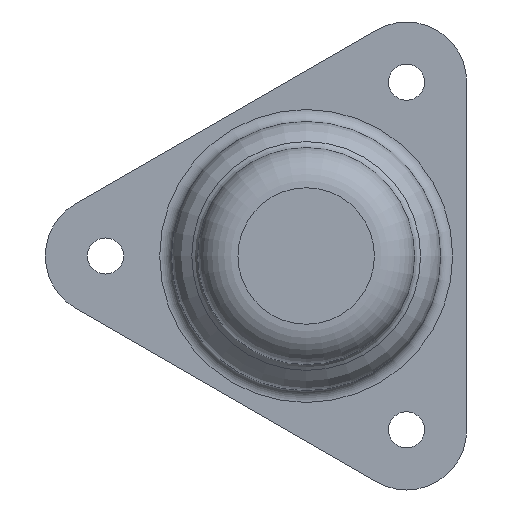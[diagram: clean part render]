
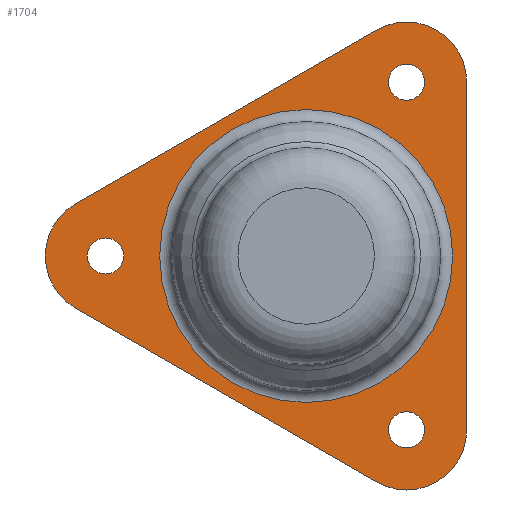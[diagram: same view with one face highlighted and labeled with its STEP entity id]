
A CAD part, left-side view. The second image highlights one B-rep face of the part: STEP entity #1704.
In plain terms, the highlighted planar face has unit normal (-1, 0, 0).
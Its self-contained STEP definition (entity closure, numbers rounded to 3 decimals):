
#28=FACE_BOUND('',#509,.T.);
#29=FACE_BOUND('',#510,.T.);
#30=FACE_BOUND('',#511,.T.);
#31=FACE_BOUND('',#512,.T.);
#58=PLANE('',#1967);
#104=LINE('',#3164,#179);
#135=LINE('',#3339,#210);
#137=LINE('',#3343,#212);
#179=VECTOR('',#2309,10.);
#210=VECTOR('',#2524,10.);
#212=VECTOR('',#2528,10.);
#384=FACE_OUTER_BOUND('',#508,.T.);
#508=EDGE_LOOP('',(#1520,#1521,#1522,#1523,#1524,#1525));
#509=EDGE_LOOP('',(#1526));
#510=EDGE_LOOP('',(#1527));
#511=EDGE_LOOP('',(#1528));
#512=EDGE_LOOP('',(#1529));
#610=CIRCLE('',#1873,15.);
#611=CIRCLE('',#1876,15.);
#654=CIRCLE('',#1952,4.5);
#656=CIRCLE('',#1955,4.5);
#658=CIRCLE('',#1958,4.5);
#661=CIRCLE('',#1968,15.);
#662=CIRCLE('',#1969,36.5);
#761=VERTEX_POINT('',#3156);
#762=VERTEX_POINT('',#3158);
#763=VERTEX_POINT('',#3162);
#764=VERTEX_POINT('',#3166);
#808=VERTEX_POINT('',#3309);
#810=VERTEX_POINT('',#3315);
#812=VERTEX_POINT('',#3321);
#815=VERTEX_POINT('',#3338);
#816=VERTEX_POINT('',#3342);
#817=VERTEX_POINT('',#3345);
#970=EDGE_CURVE('',#761,#762,#610,.T.);
#973=EDGE_CURVE('',#763,#761,#104,.T.);
#975=EDGE_CURVE('',#764,#763,#611,.T.);
#1041=EDGE_CURVE('',#808,#808,#654,.T.);
#1044=EDGE_CURVE('',#810,#810,#656,.T.);
#1047=EDGE_CURVE('',#812,#812,#658,.T.);
#1054=EDGE_CURVE('',#762,#815,#135,.T.);
#1056=EDGE_CURVE('',#816,#764,#137,.T.);
#1057=EDGE_CURVE('',#815,#816,#661,.T.);
#1058=EDGE_CURVE('',#817,#817,#662,.T.);
#1520=ORIENTED_EDGE('',*,*,#970,.F.);
#1521=ORIENTED_EDGE('',*,*,#973,.F.);
#1522=ORIENTED_EDGE('',*,*,#975,.F.);
#1523=ORIENTED_EDGE('',*,*,#1056,.F.);
#1524=ORIENTED_EDGE('',*,*,#1057,.F.);
#1525=ORIENTED_EDGE('',*,*,#1054,.F.);
#1526=ORIENTED_EDGE('',*,*,#1041,.T.);
#1527=ORIENTED_EDGE('',*,*,#1044,.T.);
#1528=ORIENTED_EDGE('',*,*,#1047,.T.);
#1529=ORIENTED_EDGE('',*,*,#1058,.T.);
#1704=ADVANCED_FACE('',(#384,#28,#29,#30,#31),#58,.F.);
#1873=AXIS2_PLACEMENT_3D('',#3159,#2303,#2304);
#1876=AXIS2_PLACEMENT_3D('',#3168,#2313,#2314);
#1952=AXIS2_PLACEMENT_3D('',#3311,#2488,#2489);
#1955=AXIS2_PLACEMENT_3D('',#3317,#2495,#2496);
#1958=AXIS2_PLACEMENT_3D('',#3323,#2502,#2503);
#1967=AXIS2_PLACEMENT_3D('',#3341,#2526,#2527);
#1968=AXIS2_PLACEMENT_3D('',#3344,#2529,#2530);
#1969=AXIS2_PLACEMENT_3D('',#3346,#2531,#2532);
#2303=DIRECTION('center_axis',(1.,0.,0.));
#2304=DIRECTION('ref_axis',(0.,-0.5,-0.866));
#2309=DIRECTION('',(0.,0.,-1.));
#2313=DIRECTION('center_axis',(1.,0.,0.));
#2314=DIRECTION('ref_axis',(0.,-0.5,0.866));
#2488=DIRECTION('center_axis',(1.,0.,0.));
#2489=DIRECTION('ref_axis',(0.,0.,-1.));
#2495=DIRECTION('center_axis',(1.,0.,0.));
#2496=DIRECTION('ref_axis',(0.,0.,-1.));
#2502=DIRECTION('center_axis',(1.,0.,0.));
#2503=DIRECTION('ref_axis',(0.,0.,-1.));
#2524=DIRECTION('',(0.,0.866,0.5));
#2526=DIRECTION('center_axis',(1.,0.,0.));
#2527=DIRECTION('ref_axis',(0.,0.,-1.));
#2528=DIRECTION('',(0.,-0.866,0.5));
#2529=DIRECTION('center_axis',(1.,0.,0.));
#2530=DIRECTION('ref_axis',(0.,1.,0.));
#2531=DIRECTION('center_axis',(1.,0.,0.));
#2532=DIRECTION('ref_axis',(0.,0.,-1.));
#3156=CARTESIAN_POINT('',(103.,-40.,-43.301));
#3158=CARTESIAN_POINT('',(103.,-17.5,-56.292));
#3159=CARTESIAN_POINT('Origin',(103.,-25.,-43.301));
#3162=CARTESIAN_POINT('',(103.,-40.,43.301));
#3164=CARTESIAN_POINT('',(103.,-40.,69.282));
#3166=CARTESIAN_POINT('',(103.,-17.5,56.292));
#3168=CARTESIAN_POINT('Origin',(103.,-25.,43.301));
#3309=CARTESIAN_POINT('',(103.,-25.,-38.801));
#3311=CARTESIAN_POINT('Origin',(103.,-25.,-43.301));
#3315=CARTESIAN_POINT('',(103.,50.,4.5));
#3317=CARTESIAN_POINT('Origin',(103.,50.,0.));
#3321=CARTESIAN_POINT('',(103.,-25.,47.801));
#3323=CARTESIAN_POINT('Origin',(103.,-25.,43.301));
#3338=CARTESIAN_POINT('',(103.,57.5,-12.99));
#3339=CARTESIAN_POINT('',(103.,-40.,-69.282));
#3341=CARTESIAN_POINT('Origin',(103.,20.,0.));
#3342=CARTESIAN_POINT('',(103.,57.5,12.99));
#3343=CARTESIAN_POINT('',(103.,80.,0.));
#3344=CARTESIAN_POINT('Origin',(103.,50.,0.));
#3345=CARTESIAN_POINT('',(103.,-36.5,0.));
#3346=CARTESIAN_POINT('Origin',(103.,0.,0.));
